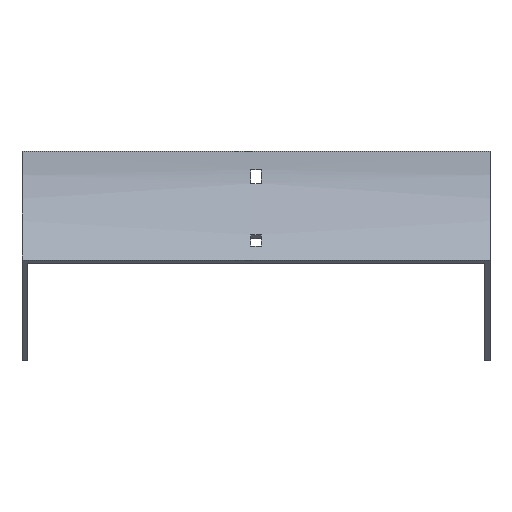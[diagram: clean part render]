
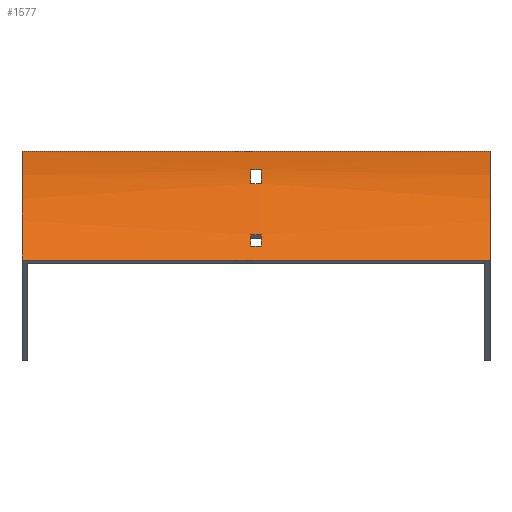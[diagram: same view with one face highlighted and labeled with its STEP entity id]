
A CAD part, front view. The second image highlights one B-rep face of the part: STEP entity #1577.
In plain terms, the highlighted cylindrical face has radius 100 mm (diameter 200 mm), a partial arc.
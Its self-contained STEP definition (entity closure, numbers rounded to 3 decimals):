
#2 = EDGE_CURVE ( 'NONE', #745, #237, #91, .T. ) ;
#3 = CARTESIAN_POINT ( 'NONE',  ( 3.25, -100., 0. ) ) ;
#4 = EDGE_CURVE ( 'NONE', #912, #573, #1160, .T. ) ;
#14 = FACE_BOUND ( 'NONE', #1355, .T. ) ;
#25 = ORIENTED_EDGE ( 'NONE', *, *, #651, .T. ) ;
#53 = CIRCLE ( 'NONE', #1436, 100. ) ;
#54 = CARTESIAN_POINT ( 'NONE',  ( -3.25, -100., 0. ) ) ;
#91 = CIRCLE ( 'NONE', #1376, 100. ) ;
#110 = VECTOR ( 'NONE', #160, 1000. ) ;
#134 = CARTESIAN_POINT ( 'NONE',  ( -3.25, -0.723, -12. ) ) ;
#146 = CARTESIAN_POINT ( 'NONE',  ( -3.25, -16.017, -54.285 ) ) ;
#160 = DIRECTION ( 'NONE',  ( -1., 0., 0. ) ) ;
#178 = CARTESIAN_POINT ( 'NONE',  ( 152., -16.017, -54.285 ) ) ;
#188 = LINE ( 'NONE', #1225, #1646 ) ;
#201 = CARTESIAN_POINT ( 'NONE',  ( 152., -29.289, -70.711 ) ) ;
#225 = CIRCLE ( 'NONE', #1186, 100. ) ;
#237 = VERTEX_POINT ( 'NONE', #201 ) ;
#239 = VERTEX_POINT ( 'NONE', #1244 ) ;
#278 = DIRECTION ( 'NONE',  ( 0., 0., 1. ) ) ;
#290 = CARTESIAN_POINT ( 'NONE',  ( -152., -100., 0. ) ) ;
#296 = CARTESIAN_POINT ( 'NONE',  ( 3.25, -21.315, -61.714 ) ) ;
#319 = AXIS2_PLACEMENT_3D ( 'NONE', #290, #1067, #1339 ) ;
#356 = DIRECTION ( 'NONE',  ( 0., 0., 1. ) ) ;
#391 = DIRECTION ( 'NONE',  ( -1., 0., 0. ) ) ;
#443 = VERTEX_POINT ( 'NONE', #296 ) ;
#486 = EDGE_CURVE ( 'NONE', #239, #1231, #808, .T. ) ;
#493 = CARTESIAN_POINT ( 'NONE',  ( -3.25, -100., 0. ) ) ;
#526 = DIRECTION ( 'NONE',  ( 0., 0., -1. ) ) ;
#536 = DIRECTION ( 'NONE',  ( 0., 0., 1. ) ) ;
#538 = EDGE_CURVE ( 'NONE', #1453, #443, #1490, .T. ) ;
#573 = VERTEX_POINT ( 'NONE', #1272 ) ;
#577 = DIRECTION ( 'NONE',  ( 0., 0., 1. ) ) ;
#587 = ORIENTED_EDGE ( 'NONE', *, *, #968, .F. ) ;
#617 = DIRECTION ( 'NONE',  ( 0., 0., -1. ) ) ;
#644 = CIRCLE ( 'NONE', #1234, 100. ) ;
#648 = FACE_OUTER_BOUND ( 'NONE', #1491, .T. ) ;
#651 = EDGE_CURVE ( 'NONE', #1541, #1128, #877, .T. ) ;
#659 = ORIENTED_EDGE ( 'NONE', *, *, #839, .T. ) ;
#669 = LINE ( 'NONE', #699, #110 ) ;
#676 = VECTOR ( 'NONE', #998, 1000. ) ;
#698 = DIRECTION ( 'NONE',  ( -1., 0., 0. ) ) ;
#699 = CARTESIAN_POINT ( 'NONE',  ( 152., 0., 0. ) ) ;
#740 = CARTESIAN_POINT ( 'NONE',  ( 3.25, -100., 0. ) ) ;
#745 = VERTEX_POINT ( 'NONE', #1044 ) ;
#793 = CARTESIAN_POINT ( 'NONE',  ( 3.25, -2.23, -21. ) ) ;
#808 = LINE ( 'NONE', #178, #1509 ) ;
#839 = EDGE_CURVE ( 'NONE', #1222, #1541, #188, .T. ) ;
#858 = ORIENTED_EDGE ( 'NONE', *, *, #1096, .T. ) ;
#877 = CIRCLE ( 'NONE', #1321, 100. ) ;
#883 = CARTESIAN_POINT ( 'NONE',  ( 152., -0.723, -12. ) ) ;
#897 = FACE_BOUND ( 'NONE', #1293, .T. ) ;
#898 = VERTEX_POINT ( 'NONE', #1108 ) ;
#912 = VERTEX_POINT ( 'NONE', #1372 ) ;
#915 = CARTESIAN_POINT ( 'NONE',  ( -3.25, -2.23, -21. ) ) ;
#919 = DIRECTION ( 'NONE',  ( 1., 0., 0. ) ) ;
#950 = VECTOR ( 'NONE', #919, 1000. ) ;
#968 = EDGE_CURVE ( 'NONE', #237, #573, #1522, .T. ) ;
#988 = ORIENTED_EDGE ( 'NONE', *, *, #1617, .T. ) ;
#998 = DIRECTION ( 'NONE',  ( -1., 0., 0. ) ) ;
#1006 = EDGE_CURVE ( 'NONE', #443, #239, #644, .T. ) ;
#1018 = VECTOR ( 'NONE', #1651, 1000. ) ;
#1023 = LINE ( 'NONE', #883, #950 ) ;
#1044 = CARTESIAN_POINT ( 'NONE',  ( 152., 0., 0. ) ) ;
#1067 = DIRECTION ( 'NONE',  ( -1., 0., 0. ) ) ;
#1096 = EDGE_CURVE ( 'NONE', #1128, #898, #1023, .T. ) ;
#1108 = CARTESIAN_POINT ( 'NONE',  ( 3.25, -0.723, -12. ) ) ;
#1112 = EDGE_CURVE ( 'NONE', #1231, #1453, #53, .T. ) ;
#1121 = CARTESIAN_POINT ( 'NONE',  ( 152., -29.289, -70.711 ) ) ;
#1128 = VERTEX_POINT ( 'NONE', #134 ) ;
#1160 = CIRCLE ( 'NONE', #319, 100. ) ;
#1172 = ORIENTED_EDGE ( 'NONE', *, *, #1445, .T. ) ;
#1184 = ORIENTED_EDGE ( 'NONE', *, *, #1006, .F. ) ;
#1186 = AXIS2_PLACEMENT_3D ( 'NONE', #3, #1341, #526 ) ;
#1202 = DIRECTION ( 'NONE',  ( -1., 0., 0. ) ) ;
#1219 = CARTESIAN_POINT ( 'NONE',  ( 152., -100., 0. ) ) ;
#1222 = VERTEX_POINT ( 'NONE', #793 ) ;
#1225 = CARTESIAN_POINT ( 'NONE',  ( 152., -2.23, -21. ) ) ;
#1231 = VERTEX_POINT ( 'NONE', #146 ) ;
#1234 = AXIS2_PLACEMENT_3D ( 'NONE', #740, #1517, #356 ) ;
#1244 = CARTESIAN_POINT ( 'NONE',  ( 3.25, -16.017, -54.285 ) ) ;
#1262 = AXIS2_PLACEMENT_3D ( 'NONE', #1575, #1684, #536 ) ;
#1272 = CARTESIAN_POINT ( 'NONE',  ( -152., -29.289, -70.711 ) ) ;
#1293 = EDGE_LOOP ( 'NONE', ( #659, #25, #858, #1172 ) ) ;
#1321 = AXIS2_PLACEMENT_3D ( 'NONE', #54, #1393, #577 ) ;
#1339 = DIRECTION ( 'NONE',  ( 0., 0., 1. ) ) ;
#1341 = DIRECTION ( 'NONE',  ( -1., 0., 0. ) ) ;
#1355 = EDGE_LOOP ( 'NONE', ( #1626, #1552, #1184, #1612 ) ) ;
#1372 = CARTESIAN_POINT ( 'NONE',  ( -152., 0., 0. ) ) ;
#1376 = AXIS2_PLACEMENT_3D ( 'NONE', #1219, #1202, #278 ) ;
#1387 = CARTESIAN_POINT ( 'NONE',  ( 152., -21.315, -61.714 ) ) ;
#1393 = DIRECTION ( 'NONE',  ( 1., 0., 0. ) ) ;
#1418 = CYLINDRICAL_SURFACE ( 'NONE', #1262, 100. ) ;
#1436 = AXIS2_PLACEMENT_3D ( 'NONE', #493, #391, #617 ) ;
#1445 = EDGE_CURVE ( 'NONE', #898, #1222, #225, .T. ) ;
#1453 = VERTEX_POINT ( 'NONE', #1585 ) ;
#1485 = ORIENTED_EDGE ( 'NONE', *, *, #4, .T. ) ;
#1490 = LINE ( 'NONE', #1387, #1018 ) ;
#1491 = EDGE_LOOP ( 'NONE', ( #1485, #587, #1499, #988 ) ) ;
#1499 = ORIENTED_EDGE ( 'NONE', *, *, #2, .F. ) ;
#1509 = VECTOR ( 'NONE', #698, 1000. ) ;
#1517 = DIRECTION ( 'NONE',  ( 1., 0., 0. ) ) ;
#1522 = LINE ( 'NONE', #1121, #676 ) ;
#1541 = VERTEX_POINT ( 'NONE', #915 ) ;
#1552 = ORIENTED_EDGE ( 'NONE', *, *, #486, .F. ) ;
#1575 = CARTESIAN_POINT ( 'NONE',  ( 152., -100., 0. ) ) ;
#1577 = ADVANCED_FACE ( 'NONE', ( #648, #897, #14 ), #1418, .F. ) ;
#1582 = DIRECTION ( 'NONE',  ( -1., 0., 0. ) ) ;
#1585 = CARTESIAN_POINT ( 'NONE',  ( -3.25, -21.315, -61.714 ) ) ;
#1612 = ORIENTED_EDGE ( 'NONE', *, *, #538, .F. ) ;
#1617 = EDGE_CURVE ( 'NONE', #745, #912, #669, .T. ) ;
#1626 = ORIENTED_EDGE ( 'NONE', *, *, #1112, .F. ) ;
#1646 = VECTOR ( 'NONE', #1582, 1000. ) ;
#1651 = DIRECTION ( 'NONE',  ( 1., 0., 0. ) ) ;
#1684 = DIRECTION ( 'NONE',  ( -1., 0., 0. ) ) ;
